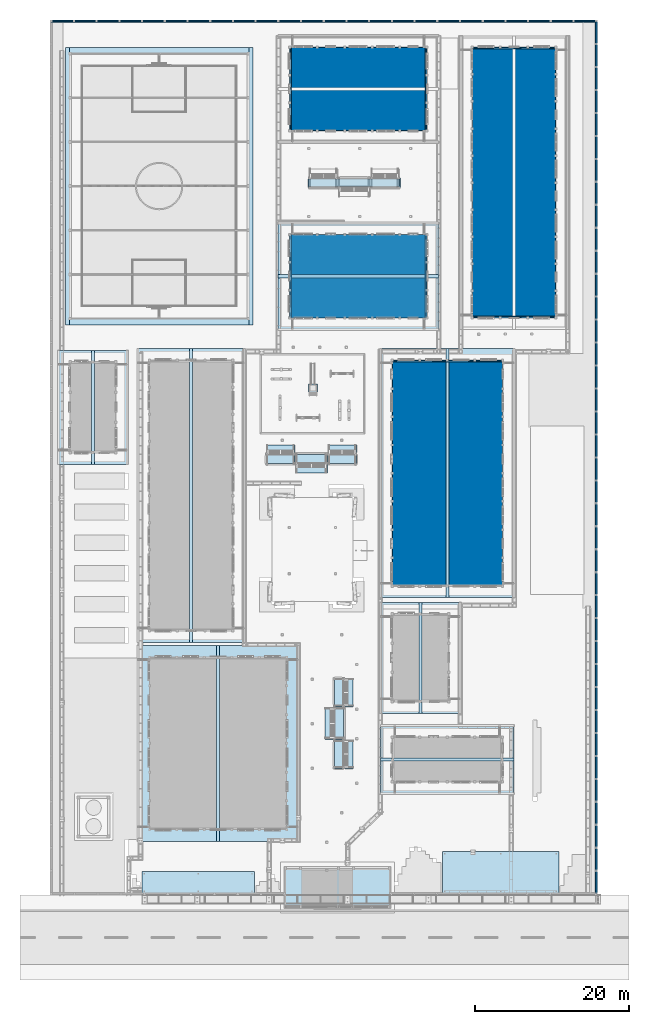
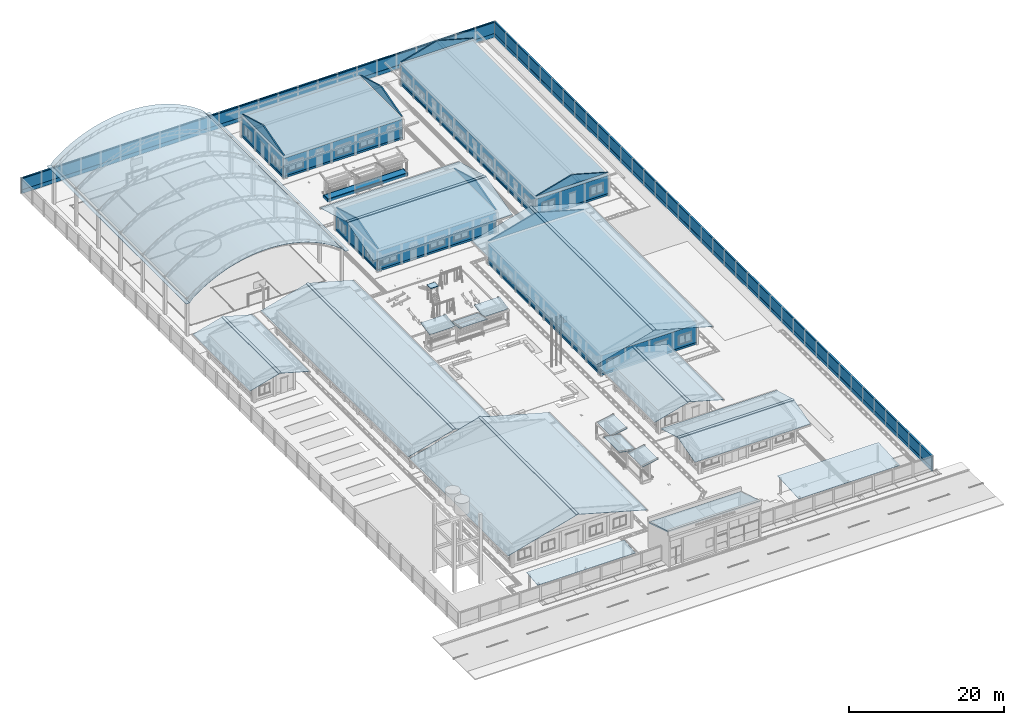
# One storey, part 33 of 151: 25 roofs, 23 walls.
"""IFC2X3 building model written with IfcOpenShell, lengths in metres."""

from ifc_helpers import new_model, si_unit, origin, origin_with_axes, place, context, subcontext, project, spatial, faceted_brep, element, save


model = new_model("IFC2X3")

# Units and contexts
model_context = context("Model", 3, precision=1e-05, world=origin_with_axes())
body_context = subcontext(model_context, "Body", "Model", "MODEL_VIEW")
ifc_project = project(units=[si_unit("LENGTHUNIT", "METRE"), si_unit("AREAUNIT", "SQUARE_METRE"), si_unit("VOLUMEUNIT", "CUBIC_METRE"), si_unit("PLANEANGLEUNIT", "RADIAN")], contexts=[model_context])

# Site, building, storey
site_placement = place(None, origin_with_axes())
site = spatial("IfcSite", under=ifc_project, at=site_placement, Name="Predio Los Mangos - Morales, San Martín", CompositionType="ELEMENT")
building_placement = place(site_placement, origin())
building = spatial("IfcBuilding", under=site, at=building_placement, Name="Hogar de Refugio Temporal", CompositionType="ELEMENT")
storey_placement = place(building_placement, origin())
storey = spatial("IfcBuildingStorey", under=building, at=storey_placement, Name="NIVEL 1 (NPT +0.00)", CompositionType="ELEMENT", Elevation=0.0)

# Walls
wall_1_placement = place(storey_placement, origin())
element("IfcWall", 1, at=wall_1_placement, inside=storey, Name="E-05_muro", ObjectType="Muro", context=body_context, shape_type="Brep", body=[
    faceted_brep([(45.3, 57.9, 0.15), (45.3, 87.2, 0.15), (59.6, 87.2, 0.15), (59.6, 57.9, 0.15), (45.3, 57.9, 3.3), (59.6, 57.9, 3.3), (59.6, 87.2, 3.3), (45.3, 87.2, 3.3)], [[[0, 1, 2, 3]], [[4, 5, 6, 7]], [[0, 3, 5, 4]], [[3, 2, 6, 5]], [[2, 1, 7, 6]], [[1, 0, 4, 7]]]),
])
wall_2_placement = place(storey_placement, origin())
element("IfcWall", 2, at=wall_2_placement, inside=storey, Name="E-05_zocalo", ObjectType="Muro", context=body_context, shape_type="Brep", body=[
    faceted_brep([(45.28, 57.88, 0.15), (45.28, 87.22, 0.15), (59.62, 87.22, 0.15), (59.62, 57.88, 0.15), (45.28, 57.88, 0.45), (59.62, 57.88, 0.45), (59.62, 87.22, 0.45), (45.28, 87.22, 0.45)], [[[0, 1, 2, 3]], [[4, 5, 6, 7]], [[0, 3, 5, 4]], [[3, 2, 6, 5]], [[2, 1, 7, 6]], [[1, 0, 4, 7]]]),
])
wall_3_placement = place(storey_placement, origin())
element("IfcWall", 3, at=wall_3_placement, inside=storey, Name="E-05_hastial", ObjectType="Muro", context=body_context, shape_type="Brep", body=[
    faceted_brep([(45.3, 87.2, 3.75), (52.45, 87.2, 5.752), (59.6, 87.2, 3.75), (45.3, 87.0, 3.75), (59.6, 87.0, 3.75), (52.45, 87.0, 5.752)], [[[0, 1, 2]], [[3, 4, 5]], [[0, 3, 5, 1]], [[1, 5, 4, 2]], [[0, 2, 4, 3]]]),
])
wall_4_placement = place(storey_placement, origin())
element("IfcWall", 4, at=wall_4_placement, inside=storey, Name="E-06_muro", ObjectType="Muro", context=body_context, shape_type="Brep", body=[
    faceted_brep([(32.0, 92.7, 0.15), (32.0, 103.5, 0.15), (49.8, 103.5, 0.15), (49.8, 92.7, 0.15), (32.0, 92.7, 3.3), (49.8, 92.7, 3.3), (49.8, 103.5, 3.3), (32.0, 103.5, 3.3)], [[[0, 1, 2, 3]], [[4, 5, 6, 7]], [[0, 3, 5, 4]], [[3, 2, 6, 5]], [[2, 1, 7, 6]], [[1, 0, 4, 7]]]),
])
wall_5_placement = place(storey_placement, origin())
element("IfcWall", 5, at=wall_5_placement, inside=storey, Name="E-06_zocalo", ObjectType="Muro", context=body_context, shape_type="Brep", body=[
    faceted_brep([(31.98, 92.68, 0.15), (31.98, 103.52, 0.15), (49.82, 103.52, 0.15), (49.82, 92.68, 0.15), (31.98, 92.68, 0.45), (49.82, 92.68, 0.45), (49.82, 103.52, 0.45), (31.98, 103.52, 0.45)], [[[0, 1, 2, 3]], [[4, 5, 6, 7]], [[0, 3, 5, 4]], [[3, 2, 6, 5]], [[2, 1, 7, 6]], [[1, 0, 4, 7]]]),
])
wall_6_placement = place(storey_placement, origin())
element("IfcWall", 6, at=wall_6_placement, inside=storey, Name="E-06_hastial", ObjectType="Muro", context=body_context, shape_type="Brep", body=[
    faceted_brep([(32.0, 92.7, 3.75), (32.0, 98.1, 5.262), (32.0, 103.5, 3.75), (32.2, 92.7, 3.75), (32.2, 103.5, 3.75), (32.2, 98.1, 5.262)], [[[0, 1, 2]], [[3, 4, 5]], [[0, 3, 5, 1]], [[1, 5, 4, 2]], [[0, 2, 4, 3]]]),
])
wall_7_placement = place(storey_placement, origin())
element("IfcWall", 7, at=wall_7_placement, inside=storey, Name="E-06_hastial", ObjectType="Muro", context=body_context, shape_type="Brep", body=[
    faceted_brep([(49.8, 92.7, 3.75), (49.8, 98.1, 5.262), (49.8, 103.5, 3.75), (49.6, 92.7, 3.75), (49.6, 103.5, 3.75), (49.6, 98.1, 5.262)], [[[0, 1, 2]], [[3, 4, 5]], [[0, 3, 5, 1]], [[1, 5, 4, 2]], [[0, 2, 4, 3]]]),
])
wall_8_placement = place(storey_placement, origin())
element("IfcWall", 8, at=wall_8_placement, inside=storey, Name="E-08_muro", ObjectType="Muro", context=body_context, shape_type="Brep", body=[
    faceted_brep([(32.0, 117.0, 0.15), (32.0, 127.8, 0.15), (49.8, 127.8, 0.15), (49.8, 117.0, 0.15), (32.0, 117.0, 3.3), (49.8, 117.0, 3.3), (49.8, 127.8, 3.3), (32.0, 127.8, 3.3)], [[[0, 1, 2, 3]], [[4, 5, 6, 7]], [[0, 3, 5, 4]], [[3, 2, 6, 5]], [[2, 1, 7, 6]], [[1, 0, 4, 7]]]),
])
wall_9_placement = place(storey_placement, origin())
element("IfcWall", 9, at=wall_9_placement, inside=storey, Name="E-08_zocalo", ObjectType="Muro", context=body_context, shape_type="Brep", body=[
    faceted_brep([(31.98, 116.98, 0.15), (31.98, 127.82, 0.15), (49.82, 127.82, 0.15), (49.82, 116.98, 0.15), (31.98, 116.98, 0.45), (49.82, 116.98, 0.45), (49.82, 127.82, 0.45), (31.98, 127.82, 0.45)], [[[0, 1, 2, 3]], [[4, 5, 6, 7]], [[0, 3, 5, 4]], [[3, 2, 6, 5]], [[2, 1, 7, 6]], [[1, 0, 4, 7]]]),
])
wall_10_placement = place(storey_placement, origin())
element("IfcWall", 10, at=wall_10_placement, inside=storey, Name="E-08_hastial", ObjectType="Muro", context=body_context, shape_type="Brep", body=[
    faceted_brep([(32.0, 117.0, 3.75), (32.0, 122.4, 5.262), (32.0, 127.8, 3.75), (32.2, 117.0, 3.75), (32.2, 127.8, 3.75), (32.2, 122.4, 5.262)], [[[0, 1, 2]], [[3, 4, 5]], [[0, 3, 5, 1]], [[1, 5, 4, 2]], [[0, 2, 4, 3]]]),
])
wall_11_placement = place(storey_placement, origin())
element("IfcWall", 11, at=wall_11_placement, inside=storey, Name="E-08_hastial", ObjectType="Muro", context=body_context, shape_type="Brep", body=[
    faceted_brep([(49.8, 117.0, 3.75), (49.8, 122.4, 5.262), (49.8, 127.8, 3.75), (49.6, 117.0, 3.75), (49.6, 127.8, 3.75), (49.6, 122.4, 5.262)], [[[0, 1, 2]], [[3, 4, 5]], [[0, 3, 5, 1]], [[1, 5, 4, 2]], [[0, 2, 4, 3]]]),
])
wall_12_placement = place(storey_placement, origin())
element("IfcWall", 12, at=wall_12_placement, inside=storey, Name="E-07_muro", ObjectType="Muro", context=body_context, shape_type="Brep", body=[
    faceted_brep([(55.7, 92.7, 0.15), (55.7, 127.8, 0.15), (66.5, 127.8, 0.15), (66.5, 92.7, 0.15), (55.7, 92.7, 3.3), (66.5, 92.7, 3.3), (66.5, 127.8, 3.3), (55.7, 127.8, 3.3)], [[[0, 1, 2, 3]], [[4, 5, 6, 7]], [[0, 3, 5, 4]], [[3, 2, 6, 5]], [[2, 1, 7, 6]], [[1, 0, 4, 7]]]),
])
wall_13_placement = place(storey_placement, origin())
element("IfcWall", 13, at=wall_13_placement, inside=storey, Name="E-07_zocalo", ObjectType="Muro", context=body_context, shape_type="Brep", body=[
    faceted_brep([(55.68, 92.68, 0.15), (55.68, 127.82, 0.15), (66.52, 127.82, 0.15), (66.52, 92.68, 0.15), (55.68, 92.68, 0.45), (66.52, 92.68, 0.45), (66.52, 127.82, 0.45), (55.68, 127.82, 0.45)], [[[0, 1, 2, 3]], [[4, 5, 6, 7]], [[0, 3, 5, 4]], [[3, 2, 6, 5]], [[2, 1, 7, 6]], [[1, 0, 4, 7]]]),
])
wall_14_placement = place(storey_placement, origin())
element("IfcWall", 14, at=wall_14_placement, inside=storey, Name="E-07_hastial", ObjectType="Muro", context=body_context, shape_type="Brep", body=[
    faceted_brep([(55.7, 92.7, 3.75), (61.1, 92.7, 5.262), (66.5, 92.7, 3.75), (55.7, 92.9, 3.75), (66.5, 92.9, 3.75), (61.1, 92.9, 5.262)], [[[0, 1, 2]], [[3, 4, 5]], [[0, 3, 5, 1]], [[1, 5, 4, 2]], [[0, 2, 4, 3]]]),
])
wall_15_placement = place(storey_placement, origin())
element("IfcWall", 15, at=wall_15_placement, inside=storey, Name="E-07_hastial", ObjectType="Muro", context=body_context, shape_type="Brep", body=[
    faceted_brep([(55.7, 127.8, 3.75), (61.1, 127.8, 5.262), (66.5, 127.8, 3.75), (55.7, 127.6, 3.75), (66.5, 127.6, 3.75), (61.1, 127.6, 5.262)], [[[0, 1, 2]], [[3, 4, 5]], [[0, 3, 5, 1]], [[1, 5, 4, 2]], [[0, 2, 4, 3]]]),
])
wall_16_placement = place(storey_placement, origin())
element("IfcWall", 16, at=wall_16_placement, inside=storey, Name="cerco_muro", ObjectType="Muro", context=body_context, shape_type="Brep", body=[
    faceted_brep([(71.835, 18.0, 0.0), (71.685, 18.0, 0.0), (71.685, 131.21, 0.0), (71.835, 131.21, 0.0), (71.835, 18.0, 2.4), (71.835, 131.21, 2.4), (71.685, 131.21, 2.4), (71.685, 18.0, 2.4)], [[[0, 1, 2, 3]], [[4, 5, 6, 7]], [[0, 3, 5, 4]], [[3, 2, 6, 5]], [[2, 1, 7, 6]], [[1, 0, 4, 7]]]),
])
wall_17_placement = place(storey_placement, origin())
element("IfcWall", 17, at=wall_17_placement, inside=storey, Name="cerco_zocalo", ObjectType="Muro", context=body_context, shape_type="Brep", body=[
    faceted_brep([(71.845, 18.0, 0.0), (71.675, 18.0, 0.0), (71.675, 131.21, 0.0), (71.845, 131.21, 0.0), (71.845, 18.0, 0.6), (71.845, 131.21, 0.6), (71.675, 131.21, 0.6), (71.675, 18.0, 0.6)], [[[0, 1, 2, 3]], [[4, 5, 6, 7]], [[0, 3, 5, 4]], [[3, 2, 6, 5]], [[2, 1, 7, 6]], [[1, 0, 4, 7]]]),
])
wall_18_placement = place(storey_placement, origin())
element("IfcWall", 18, at=wall_18_placement, inside=storey, Name="cerco_remate", ObjectType="Muro", context=body_context, shape_type="Brep", body=[
    faceted_brep([(71.885, 18.0, 2.4), (71.635, 18.0, 2.4), (71.635, 131.21, 2.4), (71.885, 131.21, 2.4), (71.885, 18.0, 2.46), (71.885, 131.21, 2.46), (71.635, 131.21, 2.46), (71.635, 18.0, 2.46)], [[[0, 1, 2, 3]], [[4, 5, 6, 7]], [[0, 3, 5, 4]], [[3, 2, 6, 5]], [[2, 1, 7, 6]], [[1, 0, 4, 7]]]),
])
wall_19_placement = place(storey_placement, origin())
element("IfcWall", 19, at=wall_19_placement, inside=storey, Name="cerco_muro", ObjectType="Muro", context=body_context, shape_type="Brep", body=[
    faceted_brep([(71.76, 131.285, 0.0), (71.76, 131.135, 0.0), (1.05, 131.135, 0.0), (1.05, 131.285, 0.0), (71.76, 131.285, 2.4), (1.05, 131.285, 2.4), (1.05, 131.135, 2.4), (71.76, 131.135, 2.4)], [[[0, 1, 2, 3]], [[4, 5, 6, 7]], [[0, 3, 5, 4]], [[3, 2, 6, 5]], [[2, 1, 7, 6]], [[1, 0, 4, 7]]]),
])
wall_20_placement = place(storey_placement, origin())
element("IfcWall", 20, at=wall_20_placement, inside=storey, Name="cerco_zocalo", ObjectType="Muro", context=body_context, shape_type="Brep", body=[
    faceted_brep([(71.76, 131.295, 0.0), (71.76, 131.125, 0.0), (1.05, 131.125, 0.0), (1.05, 131.295, 0.0), (71.76, 131.295, 0.6), (1.05, 131.295, 0.6), (1.05, 131.125, 0.6), (71.76, 131.125, 0.6)], [[[0, 1, 2, 3]], [[4, 5, 6, 7]], [[0, 3, 5, 4]], [[3, 2, 6, 5]], [[2, 1, 7, 6]], [[1, 0, 4, 7]]]),
])
wall_21_placement = place(storey_placement, origin())
element("IfcWall", 21, at=wall_21_placement, inside=storey, Name="cerco_remate", ObjectType="Muro", context=body_context, shape_type="Brep", body=[
    faceted_brep([(71.76, 131.335, 2.4), (71.76, 131.085, 2.4), (1.05, 131.085, 2.4), (1.05, 131.335, 2.4), (71.76, 131.335, 2.46), (1.05, 131.335, 2.46), (1.05, 131.085, 2.46), (71.76, 131.085, 2.46)], [[[0, 1, 2, 3]], [[4, 5, 6, 7]], [[0, 3, 5, 4]], [[3, 2, 6, 5]], [[2, 1, 7, 6]], [[1, 0, 4, 7]]]),
])
wall_22_placement = place(storey_placement, origin())
element("IfcWall", 22, at=wall_22_placement, inside=storey, Name="jardinera", ObjectType="Muro", context=body_context, shape_type="Brep", body=[
    faceted_brep([(46.345, 110.85, 0.0), (46.345, 109.65, 0.0), (34.355, 109.65, 0.0), (34.355, 110.85, 0.0), (46.345, 110.85, 0.45), (34.355, 110.85, 0.45), (34.355, 109.65, 0.45), (46.345, 109.65, 0.45)], [[[0, 1, 2, 3]], [[4, 5, 6, 7]], [[0, 3, 5, 4]], [[3, 2, 6, 5]], [[2, 1, 7, 6]], [[1, 0, 4, 7]]]),
])
wall_23_placement = place(storey_placement, origin())
element("IfcWall", 23, at=wall_23_placement, inside=storey, Name="jardinera_tierra", ObjectType="Muro", context=body_context, shape_type="Brep", body=[
    faceted_brep([(46.245, 110.75, 0.4), (46.245, 109.75, 0.4), (34.455, 109.75, 0.4), (34.455, 110.75, 0.4), (46.245, 110.75, 0.455), (34.455, 110.75, 0.455), (34.455, 109.75, 0.455), (46.245, 109.75, 0.455)], [[[0, 1, 2, 3]], [[4, 5, 6, 7]], [[0, 3, 5, 4]], [[3, 2, 6, 5]], [[2, 1, 7, 6]], [[1, 0, 4, 7]]]),
])

# Roofs
roof_1_placement = place(storey_placement, origin())
element("IfcRoof", 24, at=roof_1_placement, inside=storey, Name="E-01_techo", ObjectType="Cobertura", ShapeType="NOTDEFINED", context=body_context, shape_type="Brep", body=[
    faceted_brep([(12.3, 24.8, 3.33), (22.7, 24.8, 6.242), (22.7, 50.2, 6.242), (12.3, 50.2, 3.33), (33.1, 24.8, 3.33), (33.1, 50.2, 3.33), (12.3135, 24.8, 3.2819), (12.3135, 50.2, 3.2819), (22.7, 50.2, 6.192), (22.7, 24.8, 6.192), (33.0865, 50.2, 3.2819), (33.0865, 24.8, 3.2819)], [[[0, 1, 2, 3]], [[1, 4, 5, 2]], [[6, 7, 8, 9]], [[9, 8, 10, 11]], [[0, 3, 7, 6]], [[1, 0, 6, 9]], [[3, 2, 8, 7]], [[4, 1, 9, 11]], [[5, 4, 11, 10]], [[2, 5, 10, 8]]]),
])
roof_2_placement = place(storey_placement, origin())
element("IfcRoof", 25, at=roof_2_placement, inside=storey, Name="E-01_cumbrera", ObjectType="Cobertura", ShapeType="NOTDEFINED", context=body_context, shape_type="Brep", body=[
    faceted_brep([(22.5, 24.8, 6.222), (22.5, 50.2, 6.222), (22.9, 50.2, 6.222), (22.9, 24.8, 6.222), (22.5, 24.8, 6.302), (22.9, 24.8, 6.302), (22.9, 50.2, 6.302), (22.5, 50.2, 6.302)], [[[0, 1, 2, 3]], [[4, 5, 6, 7]], [[0, 3, 5, 4]], [[3, 2, 6, 5]], [[2, 1, 7, 6]], [[1, 0, 4, 7]]]),
])
roof_3_placement = place(storey_placement, origin())
element("IfcRoof", 26, at=roof_3_placement, inside=storey, Name="E-02_techo", ObjectType="Cobertura", ShapeType="NOTDEFINED", context=body_context, shape_type="Brep", body=[
    faceted_brep([(43.8, 41.4, 3.33), (48.95, 41.4, 4.772), (48.95, 55.8, 4.772), (43.8, 55.8, 3.33), (54.1, 41.4, 3.33), (54.1, 55.8, 3.33), (43.8135, 41.4, 3.2819), (43.8135, 55.8, 3.2819), (48.95, 55.8, 4.722), (48.95, 41.4, 4.722), (54.0865, 55.8, 3.2819), (54.0865, 41.4, 3.2819)], [[[0, 1, 2, 3]], [[1, 4, 5, 2]], [[6, 7, 8, 9]], [[9, 8, 10, 11]], [[0, 3, 7, 6]], [[1, 0, 6, 9]], [[3, 2, 8, 7]], [[4, 1, 9, 11]], [[5, 4, 11, 10]], [[2, 5, 10, 8]]]),
])
roof_4_placement = place(storey_placement, origin())
element("IfcRoof", 27, at=roof_4_placement, inside=storey, Name="E-02_cumbrera", ObjectType="Cobertura", ShapeType="NOTDEFINED", context=body_context, shape_type="Brep", body=[
    faceted_brep([(48.75, 41.4, 4.752), (48.75, 55.8, 4.752), (49.15, 55.8, 4.752), (49.15, 41.4, 4.752), (48.75, 41.4, 4.832), (49.15, 41.4, 4.832), (49.15, 55.8, 4.832), (48.75, 55.8, 4.832)], [[[0, 1, 2, 3]], [[4, 5, 6, 7]], [[0, 3, 5, 4]], [[3, 2, 6, 5]], [[2, 1, 7, 6]], [[1, 0, 4, 7]]]),
])
roof_5_placement = place(storey_placement, origin())
element("IfcRoof", 28, at=roof_5_placement, inside=storey, Name="E-03_techo", ObjectType="Cobertura", ShapeType="NOTDEFINED", context=body_context, shape_type="Brep", body=[
    faceted_brep([(43.8, 31.0, 3.33), (61.1, 31.0, 3.33), (61.1, 35.4, 4.562), (43.8, 35.4, 4.562), (61.1, 39.8, 3.33), (43.8, 39.8, 3.33), (43.8, 31.0135, 3.2819), (43.8, 35.4, 4.512), (61.1, 35.4, 4.512), (61.1, 31.0135, 3.2819), (43.8, 39.7865, 3.2819), (61.1, 39.7865, 3.2819)], [[[0, 1, 2, 3]], [[3, 2, 4, 5]], [[6, 7, 8, 9]], [[7, 10, 11, 8]], [[0, 3, 7, 6]], [[1, 0, 6, 9]], [[2, 1, 9, 8]], [[3, 5, 10, 7]], [[4, 2, 8, 11]], [[5, 4, 11, 10]]]),
])
roof_6_placement = place(storey_placement, origin())
element("IfcRoof", 29, at=roof_6_placement, inside=storey, Name="E-03_cumbrera", ObjectType="Cobertura", ShapeType="NOTDEFINED", context=body_context, shape_type="Brep", body=[
    faceted_brep([(43.8, 35.2, 4.542), (43.8, 35.6, 4.542), (61.1, 35.6, 4.542), (61.1, 35.2, 4.542), (43.8, 35.2, 4.622), (61.1, 35.2, 4.622), (61.1, 35.6, 4.622), (43.8, 35.6, 4.622)], [[[0, 1, 2, 3]], [[4, 5, 6, 7]], [[0, 3, 5, 4]], [[3, 2, 6, 5]], [[2, 1, 7, 6]], [[1, 0, 4, 7]]]),
])
roof_7_placement = place(storey_placement, origin())
element("IfcRoof", 30, at=roof_7_placement, inside=storey, Name="E-04_techo", ObjectType="Cobertura", ShapeType="NOTDEFINED", context=body_context, shape_type="Brep", body=[
    faceted_brep([(12.3, 50.6, 3.33), (19.2, 50.6, 5.262), (19.2, 88.7, 5.262), (12.3, 88.7, 3.33), (26.1, 50.6, 3.33), (26.1, 88.7, 3.33), (12.3135, 50.6, 3.2819), (12.3135, 88.7, 3.2819), (19.2, 88.7, 5.212), (19.2, 50.6, 5.212), (26.0865, 88.7, 3.2819), (26.0865, 50.6, 3.2819)], [[[0, 1, 2, 3]], [[1, 4, 5, 2]], [[6, 7, 8, 9]], [[9, 8, 10, 11]], [[0, 3, 7, 6]], [[1, 0, 6, 9]], [[3, 2, 8, 7]], [[4, 1, 9, 11]], [[5, 4, 11, 10]], [[2, 5, 10, 8]]]),
])
roof_8_placement = place(storey_placement, origin())
element("IfcRoof", 31, at=roof_8_placement, inside=storey, Name="E-04_cumbrera", ObjectType="Cobertura", ShapeType="NOTDEFINED", context=body_context, shape_type="Brep", body=[
    faceted_brep([(19.0, 50.6, 5.242), (19.0, 88.7, 5.242), (19.4, 88.7, 5.242), (19.4, 50.6, 5.242), (19.0, 50.6, 5.322), (19.4, 50.6, 5.322), (19.4, 88.7, 5.322), (19.0, 88.7, 5.322)], [[[0, 1, 2, 3]], [[4, 5, 6, 7]], [[0, 3, 5, 4]], [[3, 2, 6, 5]], [[2, 1, 7, 6]], [[1, 0, 4, 7]]]),
])
roof_9_placement = place(storey_placement, origin())
element("IfcRoof", 32, at=roof_9_placement, inside=storey, Name="E-05_techo", ObjectType="Cobertura", ShapeType="NOTDEFINED", context=body_context, shape_type="Brep", body=[
    faceted_brep([(43.8, 56.4, 3.33), (52.45, 56.4, 5.752), (52.45, 88.7, 5.752), (43.8, 88.7, 3.33), (61.1, 56.4, 3.33), (61.1, 88.7, 3.33), (43.8135, 56.4, 3.2819), (43.8135, 88.7, 3.2819), (52.45, 88.7, 5.702), (52.45, 56.4, 5.702), (61.0865, 88.7, 3.2819), (61.0865, 56.4, 3.2819)], [[[0, 1, 2, 3]], [[1, 4, 5, 2]], [[6, 7, 8, 9]], [[9, 8, 10, 11]], [[0, 3, 7, 6]], [[1, 0, 6, 9]], [[3, 2, 8, 7]], [[4, 1, 9, 11]], [[5, 4, 11, 10]], [[2, 5, 10, 8]]]),
])
roof_10_placement = place(storey_placement, origin())
element("IfcRoof", 33, at=roof_10_placement, inside=storey, Name="E-05_cumbrera", ObjectType="Cobertura", ShapeType="NOTDEFINED", context=body_context, shape_type="Brep", body=[
    faceted_brep([(52.25, 56.4, 5.732), (52.25, 88.7, 5.732), (52.65, 88.7, 5.732), (52.65, 56.4, 5.732), (52.25, 56.4, 5.812), (52.65, 56.4, 5.812), (52.65, 88.7, 5.812), (52.25, 88.7, 5.812)], [[[0, 1, 2, 3]], [[4, 5, 6, 7]], [[0, 3, 5, 4]], [[3, 2, 6, 5]], [[2, 1, 7, 6]], [[1, 0, 4, 7]]]),
])
roof_11_placement = place(storey_placement, origin())
element("IfcRoof", 34, at=roof_11_placement, inside=storey, Name="E-06_techo", ObjectType="Cobertura", ShapeType="NOTDEFINED", context=body_context, shape_type="Brep", body=[
    faceted_brep([(30.5, 91.2, 3.33), (51.3, 91.2, 3.33), (51.3, 98.1, 5.262), (30.5, 98.1, 5.262), (51.3, 105.0, 3.33), (30.5, 105.0, 3.33), (30.5, 91.2135, 3.2819), (30.5, 98.1, 5.212), (51.3, 98.1, 5.212), (51.3, 91.2135, 3.2819), (30.5, 104.9865, 3.2819), (51.3, 104.9865, 3.2819)], [[[0, 1, 2, 3]], [[3, 2, 4, 5]], [[6, 7, 8, 9]], [[7, 10, 11, 8]], [[0, 3, 7, 6]], [[1, 0, 6, 9]], [[2, 1, 9, 8]], [[3, 5, 10, 7]], [[4, 2, 8, 11]], [[5, 4, 11, 10]]]),
])
roof_12_placement = place(storey_placement, origin())
element("IfcRoof", 35, at=roof_12_placement, inside=storey, Name="E-06_cumbrera", ObjectType="Cobertura", ShapeType="NOTDEFINED", context=body_context, shape_type="Brep", body=[
    faceted_brep([(30.5, 97.9, 5.242), (30.5, 98.3, 5.242), (51.3, 98.3, 5.242), (51.3, 97.9, 5.242), (30.5, 97.9, 5.322), (51.3, 97.9, 5.322), (51.3, 98.3, 5.322), (30.5, 98.3, 5.322)], [[[0, 1, 2, 3]], [[4, 5, 6, 7]], [[0, 3, 5, 4]], [[3, 2, 6, 5]], [[2, 1, 7, 6]], [[1, 0, 4, 7]]]),
])
roof_13_placement = place(storey_placement, origin())
element("IfcRoof", 36, at=roof_13_placement, inside=storey, Name="E-09_techo", ObjectType="Cobertura", ShapeType="NOTDEFINED", context=body_context, shape_type="Brep", body=[
    faceted_brep([(2.0, 73.7, 3.33), (6.45, 73.7, 4.576), (6.45, 88.5, 4.576), (2.0, 88.5, 3.33), (10.9, 73.7, 3.33), (10.9, 88.5, 3.33), (2.0135, 73.7, 3.2819), (2.0135, 88.5, 3.2819), (6.45, 88.5, 4.526), (6.45, 73.7, 4.526), (10.8865, 88.5, 3.2819), (10.8865, 73.7, 3.2819)], [[[0, 1, 2, 3]], [[1, 4, 5, 2]], [[6, 7, 8, 9]], [[9, 8, 10, 11]], [[0, 3, 7, 6]], [[1, 0, 6, 9]], [[3, 2, 8, 7]], [[4, 1, 9, 11]], [[5, 4, 11, 10]], [[2, 5, 10, 8]]]),
])
roof_14_placement = place(storey_placement, origin())
element("IfcRoof", 37, at=roof_14_placement, inside=storey, Name="E-09_cumbrera", ObjectType="Cobertura", ShapeType="NOTDEFINED", context=body_context, shape_type="Brep", body=[
    faceted_brep([(6.25, 73.7, 4.556), (6.25, 88.5, 4.556), (6.65, 88.5, 4.556), (6.65, 73.7, 4.556), (6.25, 73.7, 4.636), (6.65, 73.7, 4.636), (6.65, 88.5, 4.636), (6.25, 88.5, 4.636)], [[[0, 1, 2, 3]], [[4, 5, 6, 7]], [[0, 3, 5, 4]], [[3, 2, 6, 5]], [[2, 1, 7, 6]], [[1, 0, 4, 7]]]),
])
roof_15_placement = place(storey_placement, origin())
element("IfcRoof", 38, at=roof_15_placement, inside=storey, Name="cubierta_losa", ObjectType="Cobertura", ShapeType="NOTDEFINED", context=body_context, shape_type="Brep", body=[
    faceted_brep([(2.9, 91.8, 5.77), (3.4062, 91.8, 5.77), (3.4062, 127.8, 5.77), (2.9, 127.8, 5.77), (3.9125, 91.8, 6.3555), (3.9125, 127.8, 6.3555), (4.4187, 91.8, 6.7405), (4.4187, 127.8, 6.7405), (4.925, 91.8, 7.0984), (4.925, 127.8, 7.0984), (5.4313, 91.8, 7.431), (5.4313, 127.8, 7.431), (5.9375, 91.8, 7.74), (5.9375, 127.8, 7.74), (6.4437, 91.8, 8.0267), (6.4437, 127.8, 8.0267), (6.95, 91.8, 8.2923), (6.95, 127.8, 8.2923), (7.4563, 91.8, 8.5378), (7.4563, 127.8, 8.5378), (7.9625, 91.8, 8.7643), (7.9625, 127.8, 8.7643), (8.4688, 91.8, 8.9723), (8.4688, 127.8, 8.9723), (8.975, 91.8, 9.1627), (8.975, 127.8, 9.1627), (9.4812, 91.8, 9.336), (9.4812, 127.8, 9.336), (9.9875, 91.8, 9.4926), (9.9875, 127.8, 9.4926), (10.4937, 91.8, 9.6332), (10.4937, 127.8, 9.6332), (11.0, 91.8, 9.758), (11.0, 127.8, 9.758), (11.5063, 91.8, 9.8673), (11.5063, 127.8, 9.8673), (12.0125, 91.8, 9.9616), (12.0125, 127.8, 9.9616), (12.5188, 91.8, 10.0409), (12.5188, 127.8, 10.0409), (13.025, 91.8, 10.1056), (13.025, 127.8, 10.1056), (13.5312, 91.8, 10.1557), (13.5312, 127.8, 10.1557), (14.0375, 91.8, 10.1915), (14.0375, 127.8, 10.1915), (14.5437, 91.8, 10.2129), (14.5437, 127.8, 10.2129), (15.05, 91.8, 10.22), (15.05, 127.8, 10.22), (15.5562, 91.8, 10.2129), (15.5562, 127.8, 10.2129), (16.0625, 91.8, 10.1915), (16.0625, 127.8, 10.1915), (16.5688, 91.8, 10.1557), (16.5688, 127.8, 10.1557), (17.075, 91.8, 10.1056), (17.075, 127.8, 10.1056), (17.5812, 91.8, 10.0409), (17.5812, 127.8, 10.0409), (18.0875, 91.8, 9.9616), (18.0875, 127.8, 9.9616), (18.5938, 91.8, 9.8673), (18.5938, 127.8, 9.8673), (19.1, 91.8, 9.758), (19.1, 127.8, 9.758), (19.6063, 91.8, 9.6332), (19.6063, 127.8, 9.6332), (20.1125, 91.8, 9.4926), (20.1125, 127.8, 9.4926), (20.6187, 91.8, 9.336), (20.6187, 127.8, 9.336), (21.125, 91.8, 9.1627), (21.125, 127.8, 9.1627), (21.6313, 91.8, 8.9723), (21.6313, 127.8, 8.9723), (22.1375, 91.8, 8.7643), (22.1375, 127.8, 8.7643), (22.6437, 91.8, 8.5378), (22.6437, 127.8, 8.5378), (23.15, 91.8, 8.2923), (23.15, 127.8, 8.2923), (23.6562, 91.8, 8.0267), (23.6562, 127.8, 8.0267), (24.1625, 91.8, 7.74), (24.1625, 127.8, 7.74), (24.6688, 91.8, 7.431), (24.6688, 127.8, 7.431), (25.175, 91.8, 7.0984), (25.175, 127.8, 7.0984), (25.6812, 91.8, 6.7405), (25.6812, 127.8, 6.7405), (26.1875, 91.8, 6.3555), (26.1875, 127.8, 6.3555), (26.6938, 91.8, 5.77), (26.6938, 127.8, 5.77), (27.2, 91.8, 5.77), (27.2, 127.8, 5.77), (2.9, 91.8, 5.73), (2.9, 127.8, 5.73), (3.4229, 127.8, 5.7336), (3.4229, 91.8, 5.7336), (3.9399, 127.8, 6.3263), (3.9399, 91.8, 6.3263), (4.4424, 127.8, 6.7083), (4.4424, 91.8, 6.7083), (4.9475, 127.8, 7.0654), (4.9475, 91.8, 7.0654), (5.4527, 127.8, 7.3972), (5.4527, 91.8, 7.3972), (5.9578, 127.8, 7.7055), (5.9578, 91.8, 7.7055), (6.4629, 127.8, 7.9915), (6.4629, 91.8, 7.9915), (6.968, 127.8, 8.2566), (6.968, 91.8, 8.2566), (7.4731, 127.8, 8.5016), (7.4731, 91.8, 8.5016), (7.9783, 127.8, 8.7275), (7.9783, 91.8, 8.7275), (8.4834, 127.8, 8.9351), (8.4834, 91.8, 8.9351), (8.9885, 127.8, 9.125), (8.9885, 91.8, 9.125), (9.4936, 127.8, 9.2979), (9.4936, 91.8, 9.2979), (9.9988, 127.8, 9.4543), (9.9988, 91.8, 9.4543), (10.5039, 127.8, 9.5945), (10.5039, 91.8, 9.5945), (11.009, 127.8, 9.719), (11.009, 91.8, 9.719), (11.5141, 127.8, 9.8281), (11.5141, 91.8, 9.8281), (12.0193, 127.8, 9.9222), (12.0193, 91.8, 9.9222), (12.5244, 127.8, 10.0013), (12.5244, 91.8, 10.0013), (13.0295, 127.8, 10.0659), (13.0295, 91.8, 10.0659), (13.5346, 127.8, 10.1159), (13.5346, 91.8, 10.1159), (14.0398, 127.8, 10.1515), (14.0398, 91.8, 10.1515), (14.5449, 127.8, 10.1729), (14.5449, 91.8, 10.1729), (15.05, 127.8, 10.18), (15.05, 91.8, 10.18), (15.5551, 127.8, 10.1729), (15.5551, 91.8, 10.1729), (16.0602, 127.8, 10.1515), (16.0602, 91.8, 10.1515), (16.5654, 127.8, 10.1159), (16.5654, 91.8, 10.1159), (17.0705, 127.8, 10.0659), (17.0705, 91.8, 10.0659), (17.5756, 127.8, 10.0013), (17.5756, 91.8, 10.0013), (18.0807, 127.8, 9.9222), (18.0807, 91.8, 9.9222), (18.5859, 127.8, 9.8281), (18.5859, 91.8, 9.8281), (19.091, 127.8, 9.719), (19.091, 91.8, 9.719), (19.5961, 127.8, 9.5945), (19.5961, 91.8, 9.5945), (20.1012, 127.8, 9.4543), (20.1012, 91.8, 9.4543), (20.6064, 127.8, 9.2979), (20.6064, 91.8, 9.2979), (21.1115, 127.8, 9.125), (21.1115, 91.8, 9.125), (21.6166, 127.8, 8.9351), (21.6166, 91.8, 8.9351), (22.1217, 127.8, 8.7275), (22.1217, 91.8, 8.7275), (22.6269, 127.8, 8.5016), (22.6269, 91.8, 8.5016), (23.132, 127.8, 8.2566), (23.132, 91.8, 8.2566), (23.6371, 127.8, 7.9915), (23.6371, 91.8, 7.9915), (24.1422, 127.8, 7.7055), (24.1422, 91.8, 7.7055), (24.6473, 127.8, 7.3972), (24.6473, 91.8, 7.3972), (25.1525, 127.8, 7.0654), (25.1525, 91.8, 7.0654), (25.6576, 127.8, 6.7083), (25.6576, 91.8, 6.7083), (26.1601, 127.8, 6.3263), (26.1601, 91.8, 6.3263), (26.6771, 127.8, 5.7336), (26.6771, 91.8, 5.7336), (27.2, 127.8, 5.73), (27.2, 91.8, 5.73)], [[[0, 1, 2, 3]], [[1, 4, 5, 2]], [[4, 6, 7, 5]], [[6, 8, 9, 7]], [[8, 10, 11, 9]], [[10, 12, 13, 11]], [[12, 14, 15, 13]], [[14, 16, 17, 15]], [[16, 18, 19, 17]], [[18, 20, 21, 19]], [[20, 22, 23, 21]], [[22, 24, 25, 23]], [[24, 26, 27, 25]], [[26, 28, 29, 27]], [[28, 30, 31, 29]], [[30, 32, 33, 31]], [[32, 34, 35, 33]], [[34, 36, 37, 35]], [[36, 38, 39, 37]], [[38, 40, 41, 39]], [[40, 42, 43, 41]], [[42, 44, 45, 43]], [[44, 46, 47, 45]], [[46, 48, 49, 47]], [[48, 50, 51, 49]], [[50, 52, 53, 51]], [[52, 54, 55, 53]], [[54, 56, 57, 55]], [[56, 58, 59, 57]], [[58, 60, 61, 59]], [[60, 62, 63, 61]], [[62, 64, 65, 63]], [[64, 66, 67, 65]], [[66, 68, 69, 67]], [[68, 70, 71, 69]], [[70, 72, 73, 71]], [[72, 74, 75, 73]], [[74, 76, 77, 75]], [[76, 78, 79, 77]], [[78, 80, 81, 79]], [[80, 82, 83, 81]], [[82, 84, 85, 83]], [[84, 86, 87, 85]], [[86, 88, 89, 87]], [[88, 90, 91, 89]], [[90, 92, 93, 91]], [[92, 94, 95, 93]], [[94, 96, 97, 95]], [[98, 99, 100, 101]], [[101, 100, 102, 103]], [[103, 102, 104, 105]], [[105, 104, 106, 107]], [[107, 106, 108, 109]], [[109, 108, 110, 111]], [[111, 110, 112, 113]], [[113, 112, 114, 115]], [[115, 114, 116, 117]], [[117, 116, 118, 119]], [[119, 118, 120, 121]], [[121, 120, 122, 123]], [[123, 122, 124, 125]], [[125, 124, 126, 127]], [[127, 126, 128, 129]], [[129, 128, 130, 131]], [[131, 130, 132, 133]], [[133, 132, 134, 135]], [[135, 134, 136, 137]], [[137, 136, 138, 139]], [[139, 138, 140, 141]], [[141, 140, 142, 143]], [[143, 142, 144, 145]], [[145, 144, 146, 147]], [[147, 146, 148, 149]], [[149, 148, 150, 151]], [[151, 150, 152, 153]], [[153, 152, 154, 155]], [[155, 154, 156, 157]], [[157, 156, 158, 159]], [[159, 158, 160, 161]], [[161, 160, 162, 163]], [[163, 162, 164, 165]], [[165, 164, 166, 167]], [[167, 166, 168, 169]], [[169, 168, 170, 171]], [[171, 170, 172, 173]], [[173, 172, 174, 175]], [[175, 174, 176, 177]], [[177, 176, 178, 179]], [[179, 178, 180, 181]], [[181, 180, 182, 183]], [[183, 182, 184, 185]], [[185, 184, 186, 187]], [[187, 186, 188, 189]], [[189, 188, 190, 191]], [[191, 190, 192, 193]], [[193, 192, 194, 195]], [[0, 3, 99, 98]], [[1, 0, 98, 101]], [[3, 2, 100, 99]], [[4, 1, 101, 103]], [[2, 5, 102, 100]], [[6, 4, 103, 105]], [[5, 7, 104, 102]], [[8, 6, 105, 107]], [[7, 9, 106, 104]], [[10, 8, 107, 109]], [[9, 11, 108, 106]], [[12, 10, 109, 111]], [[11, 13, 110, 108]], [[14, 12, 111, 113]], [[13, 15, 112, 110]], [[16, 14, 113, 115]], [[15, 17, 114, 112]], [[18, 16, 115, 117]], [[17, 19, 116, 114]], [[20, 18, 117, 119]], [[19, 21, 118, 116]], [[22, 20, 119, 121]], [[21, 23, 120, 118]], [[24, 22, 121, 123]], [[23, 25, 122, 120]], [[26, 24, 123, 125]], [[25, 27, 124, 122]], [[28, 26, 125, 127]], [[27, 29, 126, 124]], [[30, 28, 127, 129]], [[29, 31, 128, 126]], [[32, 30, 129, 131]], [[31, 33, 130, 128]], [[34, 32, 131, 133]], [[33, 35, 132, 130]], [[36, 34, 133, 135]], [[35, 37, 134, 132]], [[38, 36, 135, 137]], [[37, 39, 136, 134]], [[40, 38, 137, 139]], [[39, 41, 138, 136]], [[42, 40, 139, 141]], [[41, 43, 140, 138]], [[44, 42, 141, 143]], [[43, 45, 142, 140]], [[46, 44, 143, 145]], [[45, 47, 144, 142]], [[48, 46, 145, 147]], [[47, 49, 146, 144]], [[50, 48, 147, 149]], [[49, 51, 148, 146]], [[52, 50, 149, 151]], [[51, 53, 150, 148]], [[54, 52, 151, 153]], [[53, 55, 152, 150]], [[56, 54, 153, 155]], [[55, 57, 154, 152]], [[58, 56, 155, 157]], [[57, 59, 156, 154]], [[60, 58, 157, 159]], [[59, 61, 158, 156]], [[62, 60, 159, 161]], [[61, 63, 160, 158]], [[64, 62, 161, 163]], [[63, 65, 162, 160]], [[66, 64, 163, 165]], [[65, 67, 164, 162]], [[68, 66, 165, 167]], [[67, 69, 166, 164]], [[70, 68, 167, 169]], [[69, 71, 168, 166]], [[72, 70, 169, 171]], [[71, 73, 170, 168]], [[74, 72, 171, 173]], [[73, 75, 172, 170]], [[76, 74, 173, 175]], [[75, 77, 174, 172]], [[78, 76, 175, 177]], [[77, 79, 176, 174]], [[80, 78, 177, 179]], [[79, 81, 178, 176]], [[82, 80, 179, 181]], [[81, 83, 180, 178]], [[84, 82, 181, 183]], [[83, 85, 182, 180]], [[86, 84, 183, 185]], [[85, 87, 184, 182]], [[88, 86, 185, 187]], [[87, 89, 186, 184]], [[90, 88, 187, 189]], [[89, 91, 188, 186]], [[92, 90, 189, 191]], [[91, 93, 190, 188]], [[94, 92, 191, 193]], [[93, 95, 192, 190]], [[96, 94, 193, 195]], [[97, 96, 195, 194]], [[95, 97, 194, 192]]]),
])
roof_16_placement = place(storey_placement, origin())
element("IfcRoof", 39, at=roof_16_placement, inside=storey, Name="oe01_techo", ObjectType="Cobertura", ShapeType="NOTDEFINED", context=body_context, shape_type="Brep", body=[
    faceted_brep([(31.3, 16.4, 5.72), (45.1, 16.4, 5.72), (45.1, 21.3, 4.19), (31.3, 21.3, 4.19), (31.3, 16.3404, 5.5291), (31.3, 21.2404, 3.9991), (45.1, 21.2404, 3.9991), (45.1, 16.3404, 5.5291)], [[[0, 1, 2, 3]], [[4, 5, 6, 7]], [[0, 3, 5, 4]], [[1, 0, 4, 7]], [[2, 1, 7, 6]], [[3, 2, 6, 5]]]),
])
roof_17_placement = place(storey_placement, origin())
element("IfcRoof", 40, at=roof_17_placement, inside=storey, Name="techo_autos", ObjectType="Cobertura", ShapeType="NOTDEFINED", context=body_context, shape_type="Brep", body=[
    faceted_brep([(51.8, 18.0, 2.65), (66.9, 18.0, 2.65), (66.9, 23.5, 2.95), (51.8, 23.5, 2.95), (51.8, 18.0022, 2.6101), (51.8, 23.5022, 2.9101), (66.9, 23.5022, 2.9101), (66.9, 18.0022, 2.6101)], [[[0, 1, 2, 3]], [[4, 5, 6, 7]], [[0, 3, 5, 4]], [[1, 0, 4, 7]], [[2, 1, 7, 6]], [[3, 2, 6, 5]]]),
])
roof_18_placement = place(storey_placement, origin())
element("IfcRoof", 41, at=roof_18_placement, inside=storey, Name="techo_motos", ObjectType="Cobertura", ShapeType="NOTDEFINED", context=body_context, shape_type="Brep", body=[
    faceted_brep([(12.8, 18.0, 2.65), (27.4, 18.0, 2.65), (27.4, 20.9, 2.95), (12.8, 20.9, 2.95), (12.8, 18.0041, 2.6102), (12.8, 20.9041, 2.9102), (27.4, 20.9041, 2.9102), (27.4, 18.0041, 2.6102)], [[[0, 1, 2, 3]], [[4, 5, 6, 7]], [[0, 3, 5, 4]], [[1, 0, 4, 7]], [[2, 1, 7, 6]], [[3, 2, 6, 5]]]),
])
roof_19_placement = place(storey_placement, origin())
element("IfcRoof", 42, at=roof_19_placement, inside=storey, Name="tobogan_techo", ObjectType="Cobertura", ShapeType="NOTDEFINED", context=body_context, shape_type="Brep", body=[
    faceted_brep([(34.435, 83.104, 2.4), (34.435, 84.104, 2.4), (35.585, 84.104, 2.4), (35.585, 83.104, 2.4), (34.435, 83.104, 2.48), (35.585, 83.104, 2.48), (35.585, 84.104, 2.48), (34.435, 84.104, 2.48)], [[[0, 1, 2, 3]], [[4, 5, 6, 7]], [[0, 3, 5, 4]], [[3, 2, 6, 5]], [[2, 1, 7, 6]], [[1, 0, 4, 7]]]),
])
roof_20_placement = place(storey_placement, origin())
element("IfcRoof", 43, at=roof_20_placement, inside=storey, Name="oc01_cobertura_aluzinc", ObjectType="Cobertura", ShapeType="NOTDEFINED", context=body_context, shape_type="Brep", body=[
    faceted_brep([(37.8, 34.205, 2.7), (37.8, 37.995, 2.7), (40.2, 37.995, 3.16), (40.2, 34.205, 3.16), (37.7944, 34.205, 2.7295), (40.1944, 34.205, 3.1895), (40.1944, 37.995, 3.1895), (37.7944, 37.995, 2.7295)], [[[0, 1, 2, 3]], [[4, 5, 6, 7]], [[0, 3, 5, 4]], [[1, 0, 4, 7]], [[2, 1, 7, 6]], [[3, 2, 6, 5]]]),
])
roof_21_placement = place(storey_placement, origin())
element("IfcRoof", 44, at=roof_21_placement, inside=storey, Name="oc01_cobertura_aluzinc", ObjectType="Cobertura", ShapeType="NOTDEFINED", context=body_context, shape_type="Brep", body=[
    faceted_brep([(39.0, 37.995, 2.7), (39.0, 42.205, 2.7), (36.6, 42.205, 3.16), (36.6, 37.995, 3.16), (38.9944, 37.995, 2.6705), (36.5944, 37.995, 3.1305), (36.5944, 42.205, 3.1305), (38.9944, 42.205, 2.6705)], [[[0, 1, 2, 3]], [[4, 5, 6, 7]], [[0, 3, 5, 4]], [[1, 0, 4, 7]], [[2, 1, 7, 6]], [[3, 2, 6, 5]]]),
])
roof_22_placement = place(storey_placement, origin())
element("IfcRoof", 45, at=roof_22_placement, inside=storey, Name="oc01_cobertura_aluzinc", ObjectType="Cobertura", ShapeType="NOTDEFINED", context=body_context, shape_type="Brep", body=[
    faceted_brep([(37.8, 42.205, 2.7), (37.8, 45.995, 2.7), (40.2, 45.995, 3.16), (40.2, 42.205, 3.16), (37.7944, 42.205, 2.7295), (40.1944, 42.205, 3.1895), (40.1944, 45.995, 3.1895), (37.7944, 45.995, 2.7295)], [[[0, 1, 2, 3]], [[4, 5, 6, 7]], [[0, 3, 5, 4]], [[1, 0, 4, 7]], [[2, 1, 7, 6]], [[3, 2, 6, 5]]]),
])
roof_23_placement = place(storey_placement, origin())
element("IfcRoof", 46, at=roof_23_placement, inside=storey, Name="oc01_cobertura_aluzinc", ObjectType="Cobertura", ShapeType="NOTDEFINED", context=body_context, shape_type="Brep", body=[
    faceted_brep([(40.695, 73.8, 2.7), (36.905, 73.8, 2.7), (36.905, 76.2, 3.16), (40.695, 76.2, 3.16), (40.695, 73.7944, 2.7295), (40.695, 76.1944, 3.1895), (36.905, 76.1944, 3.1895), (36.905, 73.7944, 2.7295)], [[[0, 1, 2, 3]], [[4, 5, 6, 7]], [[0, 3, 5, 4]], [[1, 0, 4, 7]], [[2, 1, 7, 6]], [[3, 2, 6, 5]]]),
])
roof_24_placement = place(storey_placement, origin())
element("IfcRoof", 47, at=roof_24_placement, inside=storey, Name="oc01_cobertura_aluzinc", ObjectType="Cobertura", ShapeType="NOTDEFINED", context=body_context, shape_type="Brep", body=[
    faceted_brep([(36.905, 75.0, 2.7), (32.695, 75.0, 2.7), (32.695, 72.6, 3.16), (36.905, 72.6, 3.16), (36.905, 74.9944, 2.6705), (36.905, 72.5944, 3.1305), (32.695, 72.5944, 3.1305), (32.695, 74.9944, 2.6705)], [[[0, 1, 2, 3]], [[4, 5, 6, 7]], [[0, 3, 5, 4]], [[1, 0, 4, 7]], [[2, 1, 7, 6]], [[3, 2, 6, 5]]]),
])
roof_25_placement = place(storey_placement, origin())
element("IfcRoof", 48, at=roof_25_placement, inside=storey, Name="oc01_cobertura_aluzinc", ObjectType="Cobertura", ShapeType="NOTDEFINED", context=body_context, shape_type="Brep", body=[
    faceted_brep([(32.695, 73.8, 2.7), (28.905, 73.8, 2.7), (28.905, 76.2, 3.16), (32.695, 76.2, 3.16), (32.695, 73.7944, 2.7295), (32.695, 76.1944, 3.1895), (28.905, 76.1944, 3.1895), (28.905, 73.7944, 2.7295)], [[[0, 1, 2, 3]], [[4, 5, 6, 7]], [[0, 3, 5, 4]], [[1, 0, 4, 7]], [[2, 1, 7, 6]], [[3, 2, 6, 5]]]),
])

save(model, "model.ifc")
